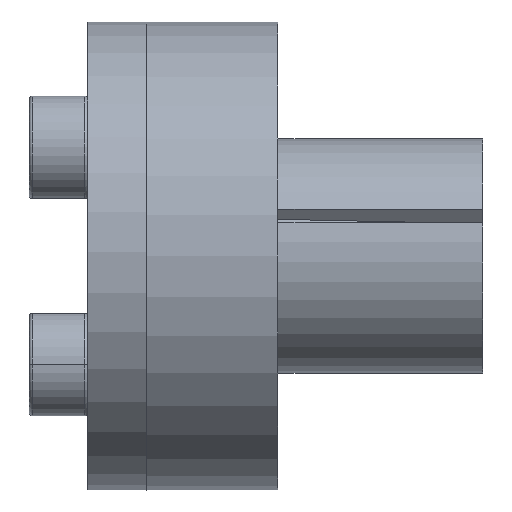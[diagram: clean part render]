
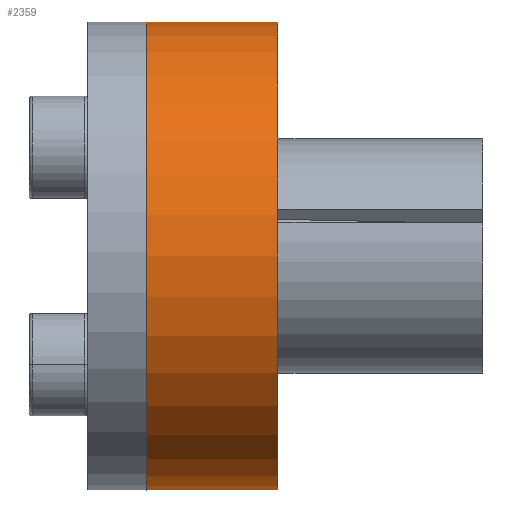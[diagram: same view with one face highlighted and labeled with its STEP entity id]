
A CAD part, front view. The second image highlights one B-rep face of the part: STEP entity #2359.
In plain terms, the highlighted cylindrical face has radius 16 mm (diameter 32 mm), a partial arc.
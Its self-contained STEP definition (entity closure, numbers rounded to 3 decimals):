
#67 = AXIS2_PLACEMENT_3D ( 'NONE', #3978, #2091, #155 ) ;
#155 = DIRECTION ( 'NONE',  ( 0., 0., 1. ) ) ;
#325 = DIRECTION ( 'NONE',  ( -1., 0., 0. ) ) ;
#395 = LINE ( 'NONE', #3713, #2866 ) ;
#489 = CARTESIAN_POINT ( 'NONE',  ( -9.471, 0., 16. ) ) ;
#713 = DIRECTION ( 'NONE',  ( -1., 0., 0. ) ) ;
#1021 = DIRECTION ( 'NONE',  ( 0., 0., 1. ) ) ;
#1079 = DIRECTION ( 'NONE',  ( -1., 0., 0. ) ) ;
#1379 = VECTOR ( 'NONE', #325, 1000. ) ;
#1435 = CARTESIAN_POINT ( 'NONE',  ( -15.417, 0., 0. ) ) ;
#1856 = CIRCLE ( 'NONE', #2132, 16. ) ;
#1863 = VERTEX_POINT ( 'NONE', #489 ) ;
#2091 = DIRECTION ( 'NONE',  ( -1., 0., 0. ) ) ;
#2101 = VERTEX_POINT ( 'NONE', #2447 ) ;
#2124 = DIRECTION ( 'NONE',  ( -1., 0., 0. ) ) ;
#2132 = AXIS2_PLACEMENT_3D ( 'NONE', #2653, #713, #2972 ) ;
#2176 = CIRCLE ( 'NONE', #67, 16. ) ;
#2312 = ORIENTED_EDGE ( 'NONE', *, *, #3301, .T. ) ;
#2359 = ADVANCED_FACE ( 'NONE', ( #2873 ), #2775, .T. ) ;
#2447 = CARTESIAN_POINT ( 'NONE',  ( -9.471, 0., -16. ) ) ;
#2590 = AXIS2_PLACEMENT_3D ( 'NONE', #1435, #1079, #1021 ) ;
#2653 = CARTESIAN_POINT ( 'NONE',  ( -9.471, 0., 0. ) ) ;
#2662 = CARTESIAN_POINT ( 'NONE',  ( -0.471, 0., 16. ) ) ;
#2704 = ORIENTED_EDGE ( 'NONE', *, *, #3778, .F. ) ;
#2775 = CYLINDRICAL_SURFACE ( 'NONE', #2590, 16. ) ;
#2866 = VECTOR ( 'NONE', #2124, 1000. ) ;
#2873 = FACE_OUTER_BOUND ( 'NONE', #3836, .T. ) ;
#2909 = ORIENTED_EDGE ( 'NONE', *, *, #3993, .T. ) ;
#2972 = DIRECTION ( 'NONE',  ( 0., 0., 1. ) ) ;
#3086 = EDGE_CURVE ( 'NONE', #2101, #1863, #1856, .T. ) ;
#3268 = ORIENTED_EDGE ( 'NONE', *, *, #3086, .F. ) ;
#3301 = EDGE_CURVE ( 'NONE', #3315, #1863, #395, .T. ) ;
#3315 = VERTEX_POINT ( 'NONE', #2662 ) ;
#3713 = CARTESIAN_POINT ( 'NONE',  ( -15.417, 0., 16. ) ) ;
#3778 = EDGE_CURVE ( 'NONE', #3888, #2101, #3825, .T. ) ;
#3825 = LINE ( 'NONE', #3844, #1379 ) ;
#3836 = EDGE_LOOP ( 'NONE', ( #2704, #2909, #2312, #3268 ) ) ;
#3844 = CARTESIAN_POINT ( 'NONE',  ( -15.417, 0., -16. ) ) ;
#3888 = VERTEX_POINT ( 'NONE', #3891 ) ;
#3891 = CARTESIAN_POINT ( 'NONE',  ( -0.471, 0., -16. ) ) ;
#3978 = CARTESIAN_POINT ( 'NONE',  ( -0.471, 0., 0. ) ) ;
#3993 = EDGE_CURVE ( 'NONE', #3888, #3315, #2176, .T. ) ;
